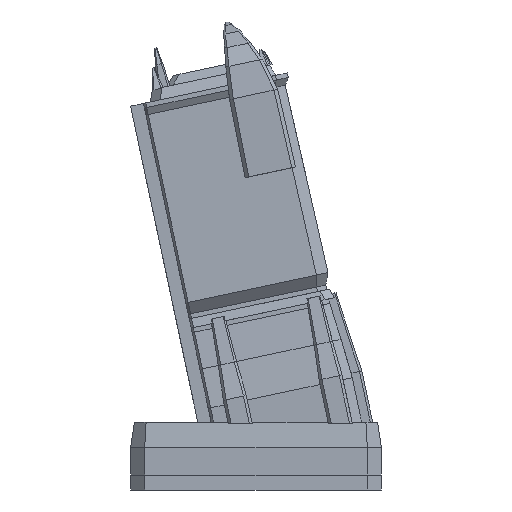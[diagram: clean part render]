
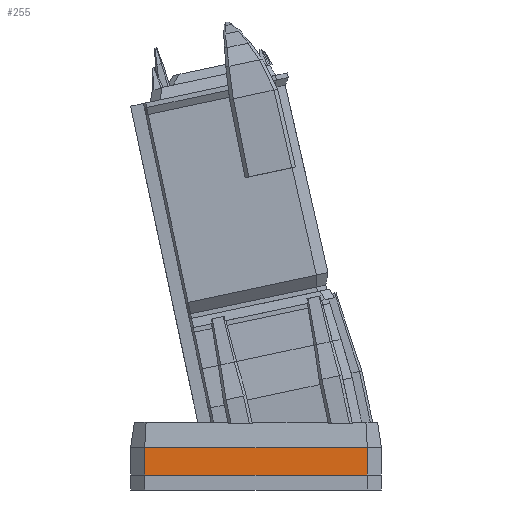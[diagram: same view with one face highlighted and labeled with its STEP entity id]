
A CAD part, left-side view. The second image highlights one B-rep face of the part: STEP entity #255.
In plain terms, the highlighted planar face has unit normal (-1, 0, 0).
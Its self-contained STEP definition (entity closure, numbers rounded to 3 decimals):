
#90 = PLANE('',#91);
#91 = AXIS2_PLACEMENT_3D('',#92,#93,#94);
#92 = CARTESIAN_POINT('',(-12.,-26.75,3.2));
#93 = DIRECTION('',(0.,0.,-1.));
#94 = DIRECTION('',(0.409,0.912,0.));
#167 = PLANE('',#168);
#168 = AXIS2_PLACEMENT_3D('',#169,#170,#171);
#169 = CARTESIAN_POINT('',(-15.,-23.75,9.));
#170 = DIRECTION('',(-0.707,-0.707,0.));
#171 = DIRECTION('',(0.707,-0.707,0.));
#182 = VERTEX_POINT('',#183);
#183 = CARTESIAN_POINT('',(-15.,-23.75,3.2));
#206 = VERTEX_POINT('',#207);
#207 = CARTESIAN_POINT('',(-15.,-23.75,9.));
#233 = EDGE_CURVE('',#182,#206,#234,.T.);
#234 = SURFACE_CURVE('',#235,(#238,#244),.PCURVE_S1.);
#235 = B_SPLINE_CURVE_WITH_KNOTS('',1,(#236,#237),.UNSPECIFIED.,.F.,.F.,
  (2,2),(0.,1.),.PIECEWISE_BEZIER_KNOTS.);
#236 = CARTESIAN_POINT('',(-15.,-23.75,3.2));
#237 = CARTESIAN_POINT('',(-15.,-23.75,9.));
#238 = PCURVE('',#167,#239);
#239 = DEFINITIONAL_REPRESENTATION('',(#240),#243);
#240 = B_SPLINE_CURVE_WITH_KNOTS('',1,(#241,#242),.UNSPECIFIED.,.F.,.F.,
  (2,2),(0.,1.),.PIECEWISE_BEZIER_KNOTS.);
#241 = CARTESIAN_POINT('',(0.,-5.8));
#242 = CARTESIAN_POINT('',(0.,0.));
#243 = ( GEOMETRIC_REPRESENTATION_CONTEXT(2) 
PARAMETRIC_REPRESENTATION_CONTEXT() REPRESENTATION_CONTEXT('2D SPACE',''
  ) );
#244 = PCURVE('',#245,#250);
#245 = PLANE('',#246);
#246 = AXIS2_PLACEMENT_3D('',#247,#248,#249);
#247 = CARTESIAN_POINT('',(-15.,23.75,9.));
#248 = DIRECTION('',(-1.,0.,0.));
#249 = DIRECTION('',(0.,-1.,0.));
#250 = DEFINITIONAL_REPRESENTATION('',(#251),#254);
#251 = B_SPLINE_CURVE_WITH_KNOTS('',1,(#252,#253),.UNSPECIFIED.,.F.,.F.,
  (2,2),(0.,1.),.PIECEWISE_BEZIER_KNOTS.);
#252 = CARTESIAN_POINT('',(47.5,-5.8));
#253 = CARTESIAN_POINT('',(47.5,0.));
#254 = ( GEOMETRIC_REPRESENTATION_CONTEXT(2) 
PARAMETRIC_REPRESENTATION_CONTEXT() REPRESENTATION_CONTEXT('2D SPACE',''
  ) );
#255 = ADVANCED_FACE('',(#256),#245,.T.);
#256 = FACE_BOUND('',#257,.T.);
#257 = EDGE_LOOP('',(#258,#281,#282,#310));
#258 = ORIENTED_EDGE('',*,*,#259,.T.);
#259 = EDGE_CURVE('',#260,#182,#262,.T.);
#260 = VERTEX_POINT('',#261);
#261 = CARTESIAN_POINT('',(-15.,23.75,3.2));
#262 = SURFACE_CURVE('',#263,(#267,#274),.PCURVE_S1.);
#263 = LINE('',#264,#265);
#264 = CARTESIAN_POINT('',(-15.,23.75,3.2));
#265 = VECTOR('',#266,1.);
#266 = DIRECTION('',(0.,-1.,0.));
#267 = PCURVE('',#245,#268);
#268 = DEFINITIONAL_REPRESENTATION('',(#269),#273);
#269 = LINE('',#270,#271);
#270 = CARTESIAN_POINT('',(0.,-5.8));
#271 = VECTOR('',#272,1.);
#272 = DIRECTION('',(1.,0.));
#273 = ( GEOMETRIC_REPRESENTATION_CONTEXT(2) 
PARAMETRIC_REPRESENTATION_CONTEXT() REPRESENTATION_CONTEXT('2D SPACE',''
  ) );
#274 = PCURVE('',#90,#275);
#275 = DEFINITIONAL_REPRESENTATION('',(#276),#280);
#276 = LINE('',#277,#278);
#277 = CARTESIAN_POINT('',(44.848,-23.407));
#278 = VECTOR('',#279,1.);
#279 = DIRECTION('',(-0.912,0.409));
#280 = ( GEOMETRIC_REPRESENTATION_CONTEXT(2) 
PARAMETRIC_REPRESENTATION_CONTEXT() REPRESENTATION_CONTEXT('2D SPACE',''
  ) );
#281 = ORIENTED_EDGE('',*,*,#233,.T.);
#282 = ORIENTED_EDGE('',*,*,#283,.F.);
#283 = EDGE_CURVE('',#284,#206,#286,.T.);
#284 = VERTEX_POINT('',#285);
#285 = CARTESIAN_POINT('',(-15.,23.75,9.));
#286 = SURFACE_CURVE('',#287,(#291,#298),.PCURVE_S1.);
#287 = LINE('',#288,#289);
#288 = CARTESIAN_POINT('',(-15.,23.75,9.));
#289 = VECTOR('',#290,1.);
#290 = DIRECTION('',(0.,-1.,0.));
#291 = PCURVE('',#245,#292);
#292 = DEFINITIONAL_REPRESENTATION('',(#293),#297);
#293 = LINE('',#294,#295);
#294 = CARTESIAN_POINT('',(0.,0.));
#295 = VECTOR('',#296,1.);
#296 = DIRECTION('',(1.,0.));
#297 = ( GEOMETRIC_REPRESENTATION_CONTEXT(2) 
PARAMETRIC_REPRESENTATION_CONTEXT() REPRESENTATION_CONTEXT('2D SPACE',''
  ) );
#298 = PCURVE('',#299,#304);
#299 = B_SPLINE_SURFACE_WITH_KNOTS('',1,1,(
    (#300,#301)
    ,(#302,#303
    )),.UNSPECIFIED.,.F.,.F.,.F.,(2,2),(2,2),(0.,47.5),(0.,1.),
  .PIECEWISE_BEZIER_KNOTS.);
#300 = CARTESIAN_POINT('',(-15.,23.75,9.));
#301 = CARTESIAN_POINT('',(-14.2,23.45,14.5));
#302 = CARTESIAN_POINT('',(-15.,-23.75,9.));
#303 = CARTESIAN_POINT('',(-14.2,-23.45,14.5));
#304 = DEFINITIONAL_REPRESENTATION('',(#305),#309);
#305 = LINE('',#306,#307);
#306 = CARTESIAN_POINT('',(0.,0.));
#307 = VECTOR('',#308,1.);
#308 = DIRECTION('',(1.,0.));
#309 = ( GEOMETRIC_REPRESENTATION_CONTEXT(2) 
PARAMETRIC_REPRESENTATION_CONTEXT() REPRESENTATION_CONTEXT('2D SPACE',''
  ) );
#310 = ORIENTED_EDGE('',*,*,#311,.F.);
#311 = EDGE_CURVE('',#260,#284,#312,.T.);
#312 = SURFACE_CURVE('',#313,(#316,#322),.PCURVE_S1.);
#313 = B_SPLINE_CURVE_WITH_KNOTS('',1,(#314,#315),.UNSPECIFIED.,.F.,.F.,
  (2,2),(0.,1.),.PIECEWISE_BEZIER_KNOTS.);
#314 = CARTESIAN_POINT('',(-15.,23.75,3.2));
#315 = CARTESIAN_POINT('',(-15.,23.75,9.));
#316 = PCURVE('',#245,#317);
#317 = DEFINITIONAL_REPRESENTATION('',(#318),#321);
#318 = B_SPLINE_CURVE_WITH_KNOTS('',1,(#319,#320),.UNSPECIFIED.,.F.,.F.,
  (2,2),(0.,1.),.PIECEWISE_BEZIER_KNOTS.);
#319 = CARTESIAN_POINT('',(0.,-5.8));
#320 = CARTESIAN_POINT('',(0.,0.));
#321 = ( GEOMETRIC_REPRESENTATION_CONTEXT(2) 
PARAMETRIC_REPRESENTATION_CONTEXT() REPRESENTATION_CONTEXT('2D SPACE',''
  ) );
#322 = PCURVE('',#323,#328);
#323 = PLANE('',#324);
#324 = AXIS2_PLACEMENT_3D('',#325,#326,#327);
#325 = CARTESIAN_POINT('',(-12.,26.75,9.));
#326 = DIRECTION('',(-0.707,0.707,0.));
#327 = DIRECTION('',(-0.707,-0.707,0.));
#328 = DEFINITIONAL_REPRESENTATION('',(#329),#332);
#329 = B_SPLINE_CURVE_WITH_KNOTS('',1,(#330,#331),.UNSPECIFIED.,.F.,.F.,
  (2,2),(0.,1.),.PIECEWISE_BEZIER_KNOTS.);
#330 = CARTESIAN_POINT('',(4.243,-5.8));
#331 = CARTESIAN_POINT('',(4.243,0.));
#332 = ( GEOMETRIC_REPRESENTATION_CONTEXT(2) 
PARAMETRIC_REPRESENTATION_CONTEXT() REPRESENTATION_CONTEXT('2D SPACE',''
  ) );
